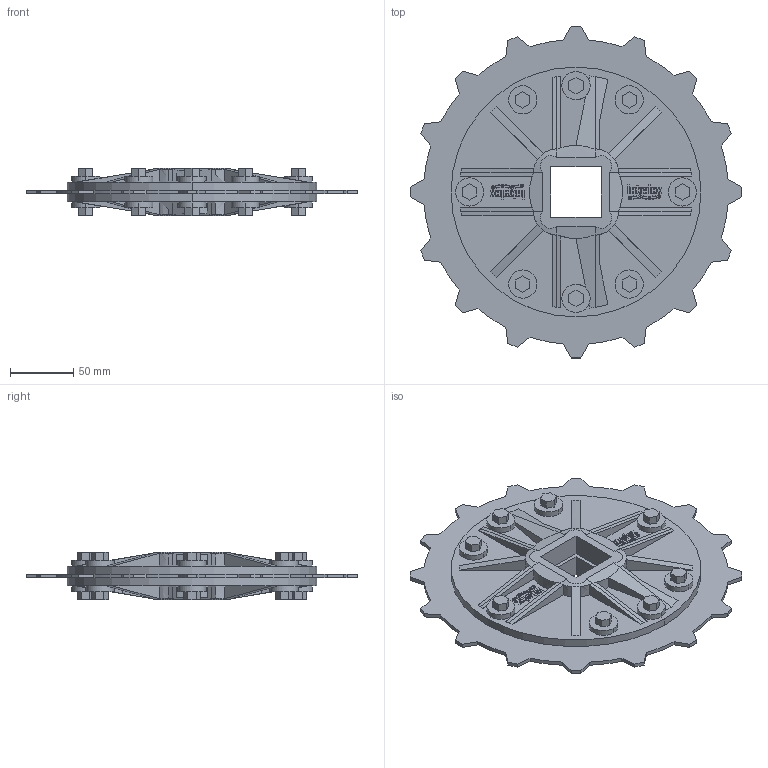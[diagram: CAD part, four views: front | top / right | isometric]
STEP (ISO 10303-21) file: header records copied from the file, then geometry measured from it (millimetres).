
FILE_DESCRIPTION((''),'2;1');
FILE_NAME('S400_SPL_METAL_101X15_40_SQ_ASM','2008-12-12T',('jmumphre'),(''),'PRO/ENGINEER BY PARAMETRIC TECHNOLOGY CORPORATION, 2008150','PRO/ENGINEER BY PARAMETRIC TECHNOLOGY CORPORATION, 2008150','');
FILE_SCHEMA(('CONFIG_CONTROL_DESIGN'));
Length unit declared in the file: inch
Products named in the file (5): S400_TP_METAL_101X36_SQ_AF0; JOINING_PLATE_8X15_40_SQ_AF0; JOINING_PLATE_8X15_40_SQ_AF1; BOLTS_N_NUTS_6-595X0-980_AF0; S400_SPL_METAL_101X15_40_SQ_ASM
Assembly tree (4 placements, depth 2):
  S400_SPL_METAL_101X15_40_SQ_ASM
    S400_TP_METAL_101X36_SQ_AF0
    JOINING_PLATE_8X15_40_SQ_AF0
    JOINING_PLATE_8X15_40_SQ_AF1
    BOLTS_N_NUTS_6-595X0-980_AF0
Bounding box: 261.48 x 261.48 x 37.59 mm (x, y, z)
Volume: 635049.5 mm3; surface area: 245702.6 mm2
Topology: 11 solids, 11 shells, 1348 faces, 3648 edges, 2416 vertices
Faces by surface type: plane 796, cylinder 472, bspline 56, extrusion 24
Entity records: 44889 total; most frequent: CARTESIAN_POINT 10165, ORIENTED_EDGE 7296, DIRECTION 7070, EDGE_CURVE 3648, VECTOR 2524, LINE 2500, VERTEX_POINT 2416, AXIS2_PLACEMENT_3D 2273
